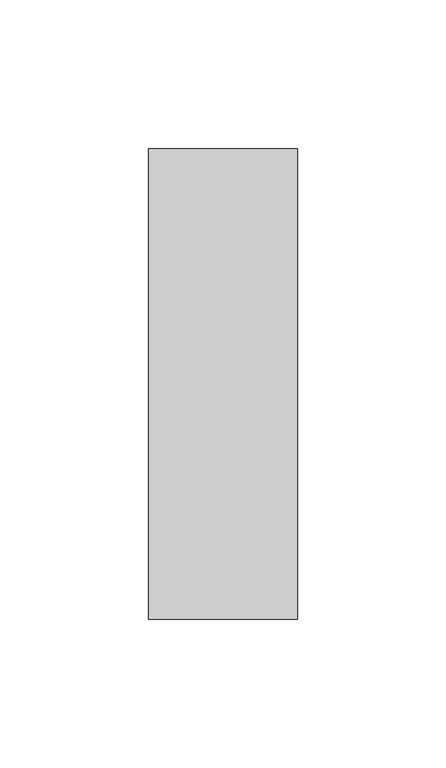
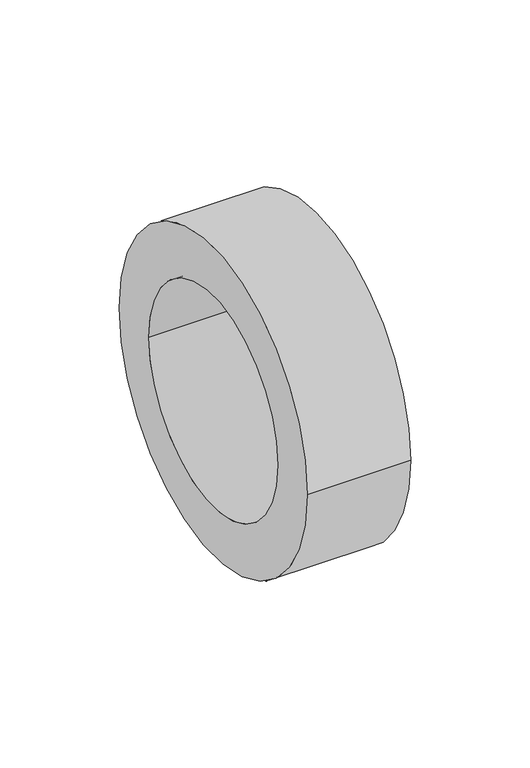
"""IFC4 building model written with IfcOpenShell, lengths in millimetres: pipe fitting geometry, СТ_Подвесы_ДляТруб_IsotermSM_D10-325_СимфонияТепла : Isoterm SM 25-108."""

from ifc_helpers import new_model, si_unit, point, frame, origin, origin_2d, place, context, project, spatial, circle_curve, trimmed, segment, composite_curve, outline, extrude, source, transform, mapped, element, save


def pipe_fitting_62ef14bb(model_context):
    return source(origin(), model_context, "Body", "SweptSolid", [
        extrude(outline(composite_curve([segment(trimmed(circle_curve(origin_2d(), 79.0), [point((-79.0, 0.0))], [point((79.0, 0.0))], False, "CARTESIAN"), True, "CONTINUOUS"), segment(trimmed(circle_curve(origin_2d(), 79.0), [point((79.0, 0.0))], [point((-79.0, 0.0))], False, "CARTESIAN"), True, "CONTINUOUS")], self_intersect=False), holes=[composite_curve([segment(trimmed(circle_curve(origin_2d(), 54.0), [point((-54.0, 0.0))], [point((54.0, 0.0))], True, "CARTESIAN"), True, "CONTINUOUS"), segment(trimmed(circle_curve(origin_2d(), 54.0), [point((54.0, 0.0))], [point((-54.0, 0.0))], True, "CARTESIAN"), True, "CONTINUOUS")], self_intersect=False)]), frame((-25.0, 0.0, 0.0), z_axis=(1.0, 0.0, 0.0), x_axis=(0.0, 1.0, 0.0)), (0.0, 0.0, 1.0), 50.0),
    ])


if __name__ == "__main__":
    model = new_model("IFC4")
    model_context = context("Model", 3, world=origin())
    ifc_project = project(units=[si_unit("LENGTHUNIT", "METRE", prefix="MILLI")], contexts=[model_context])
    site = spatial("IfcSite", under=ifc_project)
    building = spatial("IfcBuilding", under=site)
    placement = place(None, origin())
    pipe_fitting_shape = pipe_fitting_62ef14bb(model_context)
    element("IfcPipeFitting", 1, ObjectType="СТ_Подвесы_ДляТруб_IsotermSM_D10-325_СимфонияТепла : Isoterm SM 25-108", at=placement, inside=building, context=model_context, shape_type="MappedRepresentation", body=[
        mapped(pipe_fitting_shape, transform((0.0, 0.0, 0.0), x_axis=(1.0, 0.0, 0.0), y_axis=(0.0, 1.0, 0.0), z_axis=(0.0, 0.0, 1.0))),
    ])
    save(model, "model.ifc")
